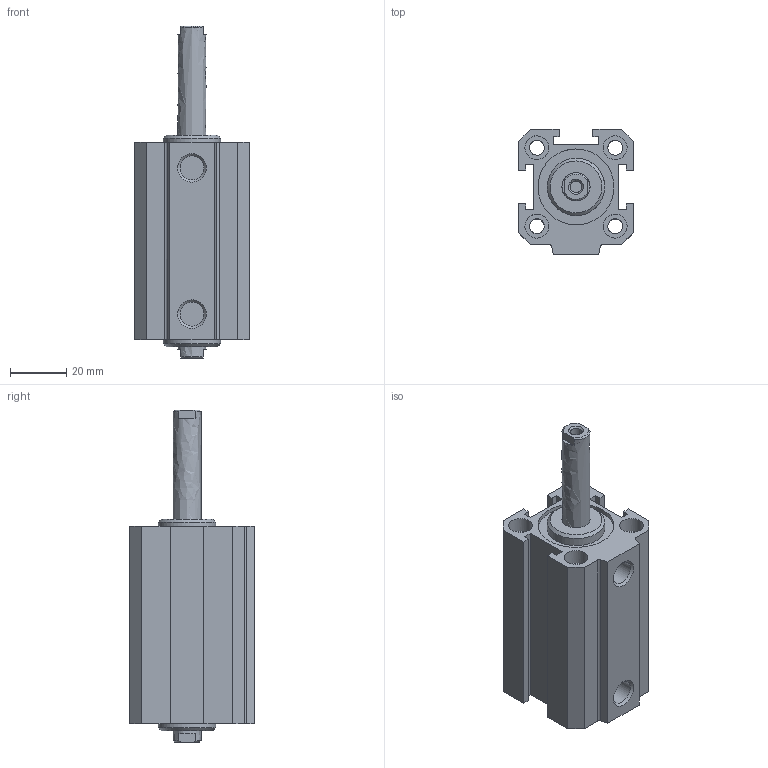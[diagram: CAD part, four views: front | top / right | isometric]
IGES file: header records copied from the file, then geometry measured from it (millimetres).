
Global section: file name: 1514_25_0035; native system: Autodesk Inventor 2014; preprocessor: unknown; author: A. Manieri; date: 20160824.112000; units: millimetre
Bounding box: 41 x 44.5 x 118.5 mm (x, y, z)
Volume: 84148.1 mm3; surface area: 35271.5 mm2
Topology: 2 solids, 2 shells, 106 faces, 280 edges, 198 vertices
Faces by surface type: bspline 106
